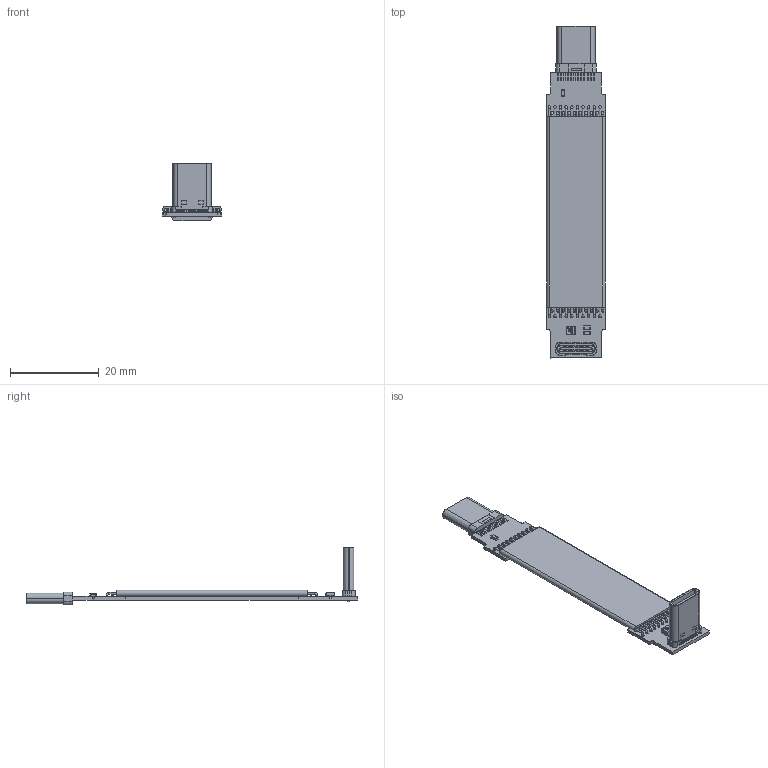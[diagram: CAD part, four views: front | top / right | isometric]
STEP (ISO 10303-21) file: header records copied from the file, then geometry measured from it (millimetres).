
FILE_DESCRIPTION(('Open CASCADE Model'),'2;1');
FILE_NAME('Open CASCADE Shape Model','2022-04-24T00:04:49',('Author'),( 'Open CASCADE'),'Open CASCADE STEP processor 6.8','Open CASCADE 6.8' ,'Unknown');
FILE_SCHEMA(('AUTOMOTIVE_DESIGN { 1 0 10303 214 1 1 1 1 }'));
Length unit declared in the file: millimetre
Products named in the file (80): PCB; Board; Open CASCADE STEP translator 6.8 1.1.1; Open CASCADE STEP translator 6.8 1.2; typec_new_20211025; Open CASCADE STEP translator 6.8 1.3; C0603_060; Designator59; User_Library-DFN8-2x2; 1; _1; type_C_T1; Free-Models; cable20-A1A1
Assembly tree (86 placements, depth 3):
  PCB
    Board
      Open CASCADE STEP translator 6.8 1.1.1
    Open CASCADE STEP translator 6.8 1.2
      typec_new_20211025
      typec_new_20211025
      typec_new_20211025
      typec_new_20211025
      typec_new_20211025
      typec_new_20211025
      typec_new_20211025
      typec_new_20211025
      typec_new_20211025
      typec_new_20211025
      typec_new_20211025
      typec_new_20211025
      typec_new_20211025
      typec_new_20211025
      typec_new_20211025
      typec_new_20211025
      typec_new_20211025
      typec_new_20211025
      typec_new_20211025
      typec_new_20211025
      typec_new_20211025
      typec_new_20211025
      typec_new_20211025
    Open CASCADE STEP translator 6.8 1.3
      C0603_060
      C0603_060
      C0603_060
    Designator59
      User_Library-DFN8-2x2  x2
      User_Library-DFN8-2x2
    1
      C0603_060
      C0603_060
      C0603_060
    _1
      type_C_T1
    _1
      C0603_060
      C0603_060
      C0603_060
    Free-Models
      cable20-A1A1
      cable20-A1A1
      cable20-A1A1
      cable20-A1A1
      cable20-A1A1
      cable20-A1A1
      cable20-A1A1
      cable20-A1A1
      cable20-A1A1
      cable20-A1A1
      cable20-A1A1
      cable20-A1A1
      cable20-A1A1
      cable20-A1A1
      cable20-A1A1
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Bounding box: 13.4 x 74.97 x 13.05 mm (x, y, z)
Volume: 1206.4 mm3; surface area: 4431.6 mm2
Topology: 75 solids, 78 shells, 1607 faces, 3892 edges, 2488 vertices
Faces by surface type: plane 1177, cylinder 315, torus 40, bspline 30, sphere 24, revolution 21
Full cylindrical faces by diameter (mm): 0.3 x3, 0.4 x100, 0.55 x40, 0.6 x2, 0.75 x2
Entity records: 54675 total; most frequent: CARTESIAN_POINT 9715, ORIENTED_EDGE 6532, DIRECTION 6461, EDGE_CURVE 3267, LINE 2567, VECTOR 2567, VERTEX_POINT 2122, AXIS2_PLACEMENT_3D 1940
